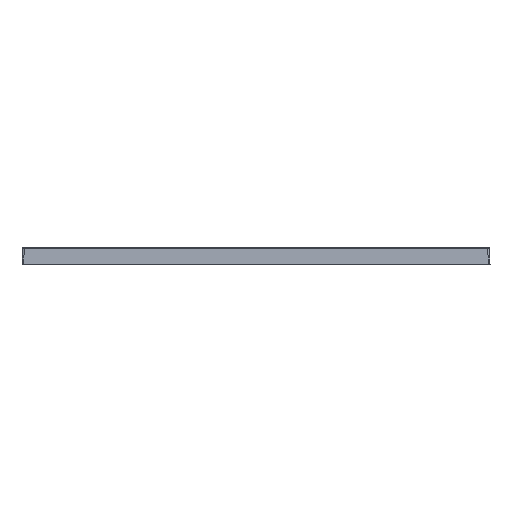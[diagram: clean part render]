
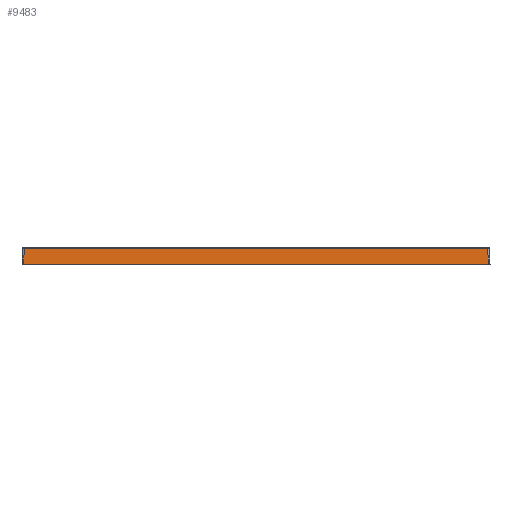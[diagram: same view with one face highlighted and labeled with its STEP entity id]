
A CAD part, front view. The second image highlights one B-rep face of the part: STEP entity #9483.
In plain terms, the highlighted planar face has unit normal (0, -0.999, 0.035).
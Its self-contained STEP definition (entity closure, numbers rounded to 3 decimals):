
#7407=CARTESIAN_POINT('',(-692.341,-497.338,-2.412));
#7408=VERTEX_POINT('',#7407);
#7554=CARTESIAN_POINT('',(692.341,-497.338,-2.413));
#7555=VERTEX_POINT('',#7554);
#7556=CARTESIAN_POINT('',(-692.341,-497.338,-2.412));
#7557=CARTESIAN_POINT('',(-683.12,-497.338,-2.411));
#7558=CARTESIAN_POINT('',(-673.917,-497.338,-2.411));
#7559=CARTESIAN_POINT('',(-664.766,-497.338,-2.413));
#7560=CARTESIAN_POINT('',(-652.677,-497.338,-2.416));
#7561=CARTESIAN_POINT('',(-640.813,-497.338,-2.419));
#7562=CARTESIAN_POINT('',(-637.878,-497.338,-2.42));
#7563=CARTESIAN_POINT('',(-627.754,-497.339,-2.423));
#7564=CARTESIAN_POINT('',(-617.711,-497.339,-2.425));
#7565=CARTESIAN_POINT('',(-610.567,-497.339,-2.427));
#7566=CARTESIAN_POINT('',(-600.946,-497.339,-2.428));
#7567=CARTESIAN_POINT('',(-591.087,-497.339,-2.429));
#7568=CARTESIAN_POINT('',(-588.552,-497.339,-2.429));
#7569=CARTESIAN_POINT('',(-578.569,-497.339,-2.428));
#7570=CARTESIAN_POINT('',(-568.365,-497.339,-2.427));
#7571=CARTESIAN_POINT('',(-560.596,-497.339,-2.426));
#7572=CARTESIAN_POINT('',(-550.12,-497.339,-2.425));
#7573=CARTESIAN_POINT('',(-539.514,-497.339,-2.424));
#7574=CARTESIAN_POINT('',(-536.855,-497.339,-2.424));
#7575=CARTESIAN_POINT('',(-526.107,-497.339,-2.423));
#7576=CARTESIAN_POINT('',(-515.229,-497.339,-2.422));
#7577=CARTESIAN_POINT('',(-506.972,-497.339,-2.422));
#7578=CARTESIAN_POINT('',(-490.312,-497.339,-2.422));
#7579=CARTESIAN_POINT('',(-473.324,-497.339,-2.422));
#7580=CARTESIAN_POINT('',(-464.694,-497.339,-2.422));
#7581=CARTESIAN_POINT('',(-447.381,-497.339,-2.423));
#7582=CARTESIAN_POINT('',(-429.752,-497.339,-2.424));
#7583=CARTESIAN_POINT('',(-420.832,-497.339,-2.424));
#7584=CARTESIAN_POINT('',(-402.883,-497.339,-2.426));
#7585=CARTESIAN_POINT('',(-384.628,-497.339,-2.428));
#7586=CARTESIAN_POINT('',(-375.421,-497.339,-2.429));
#7587=CARTESIAN_POINT('',(-356.16,-497.339,-2.432));
#7588=CARTESIAN_POINT('',(-336.578,-497.339,-2.436));
#7589=CARTESIAN_POINT('',(-326.346,-497.339,-2.437));
#7590=CARTESIAN_POINT('',(-305.735,-497.339,-2.441));
#7591=CARTESIAN_POINT('',(-284.805,-497.339,-2.445));
#7592=CARTESIAN_POINT('',(-274.203,-497.339,-2.447));
#7593=CARTESIAN_POINT('',(-252.968,-497.34,-2.451));
#7594=CARTESIAN_POINT('',(-231.418,-497.34,-2.454));
#7595=CARTESIAN_POINT('',(-220.544,-497.34,-2.456));
#7596=CARTESIAN_POINT('',(-198.663,-497.34,-2.46));
#7597=CARTESIAN_POINT('',(-176.465,-497.34,-2.463));
#7598=CARTESIAN_POINT('',(-165.284,-497.34,-2.465));
#7599=CARTESIAN_POINT('',(-141.232,-497.34,-2.468));
#7600=CARTESIAN_POINT('',(-116.829,-497.34,-2.47));
#7601=CARTESIAN_POINT('',(-103.754,-497.34,-2.471));
#7602=CARTESIAN_POINT('',(-77.408,-497.34,-2.473));
#7603=CARTESIAN_POINT('',(-50.696,-497.34,-2.474));
#7604=CARTESIAN_POINT('',(-37.251,-497.34,-2.474));
#7605=CARTESIAN_POINT('',(3.325,-497.34,-2.474));
#7606=CARTESIAN_POINT('',(44.648,-497.34,-2.473));
#7607=CARTESIAN_POINT('',(72.557,-497.34,-2.472));
#7608=CARTESIAN_POINT('',(117.571,-497.34,-2.469));
#7609=CARTESIAN_POINT('',(163.311,-497.34,-2.467));
#7610=CARTESIAN_POINT('',(180.557,-497.34,-2.466));
#7611=CARTESIAN_POINT('',(215.875,-497.34,-2.464));
#7612=CARTESIAN_POINT('',(251.583,-497.34,-2.462));
#7613=CARTESIAN_POINT('',(269.859,-497.34,-2.461));
#7614=CARTESIAN_POINT('',(307.377,-497.34,-2.46));
#7615=CARTESIAN_POINT('',(345.281,-497.34,-2.46));
#7616=CARTESIAN_POINT('',(364.711,-497.34,-2.459));
#7617=CARTESIAN_POINT('',(394.43,-497.34,-2.459));
#7618=CARTESIAN_POINT('',(424.366,-497.34,-2.458));
#7619=CARTESIAN_POINT('',(434.633,-497.34,-2.457));
#7620=CARTESIAN_POINT('',(455.271,-497.34,-2.456));
#7621=CARTESIAN_POINT('',(476.01,-497.34,-2.454));
#7622=CARTESIAN_POINT('',(486.402,-497.34,-2.453));
#7623=CARTESIAN_POINT('',(518.694,-497.339,-2.448));
#7624=CARTESIAN_POINT('',(551.228,-497.339,-2.442));
#7625=CARTESIAN_POINT('',(573.381,-497.339,-2.436));
#7626=CARTESIAN_POINT('',(610.366,-497.339,-2.425));
#7627=CARTESIAN_POINT('',(647.608,-497.338,-2.417));
#7628=CARTESIAN_POINT('',(662.484,-497.338,-2.415));
#7629=CARTESIAN_POINT('',(677.395,-497.338,-2.413));
#7630=CARTESIAN_POINT('',(692.341,-497.338,-2.413));
#7631=B_SPLINE_CURVE_WITH_KNOTS('',5,(#7556,#7557,#7558,#7559,#7560,#7561,#7562,#7563,#7564,#7565,#7566,#7567,#7568,#7569,#7570,#7571,#7572,#7573,#7574,#7575,#7576,#7577,#7578,#7579,#7580,#7581,#7582,#7583,#7584,#7585,#7586,#7587,#7588,#7589,#7590,#7591,#7592,#7593,#7594,#7595,#7596,#7597,#7598,#7599,#7600,#7601,#7602,#7603,#7604,#7605,#7606,#7607,#7608,#7609,#7610,#7611,#7612,#7613,#7614,#7615,#7616,#7617,#7618,#7619,#7620,#7621,#7622,#7623,#7624,#7625,#7626,#7627,#7628,#7629,#7630),.UNSPECIFIED.,.F.,.U.,(6,3,3,3,3,3,3,3,3,3,3,3,3,3,3,3,3,3,3,3,3,3,3,3,6),(0.0,90.927,121.269,195.387,219.97,294.088,318.794,393.661,468.429,543.257,618.123,698.621,779.018,859.496,939.994,1031.5,1122.995,1305.922,1415.427,1529.183,1647.542,1709.365,1771.153,1900.902,1986.816),.UNSPECIFIED.);
#7632=EDGE_CURVE('',#7408,#7555,#7631,.T.);
#9441=CARTESIAN_POINT('',(-694.003,-499.,-50.0));
#9442=VERTEX_POINT('',#9441);
#9450=CARTESIAN_POINT('',(-692.341,-497.338,-2.412));
#9451=DIRECTION('',(-0.035,-0.035,-0.999));
#9452=VECTOR('',#9451,47.646);
#9453=LINE('',#9450,#9452);
#9454=EDGE_CURVE('',#7408,#9442,#9453,.T.);
#9460=CARTESIAN_POINT('',(-701.891,-499.,-50.0));
#9461=DIRECTION('',(0.0,-0.999,0.035));
#9462=DIRECTION('',(0.0,-0.035,-0.999));
#9463=AXIS2_PLACEMENT_3D('',#9460,#9461,#9462);
#9464=PLANE('',#9463);
#9465=ORIENTED_EDGE('',*,*,#9454,.T.);
#9466=CARTESIAN_POINT('',(694.003,-499.,-50.0));
#9467=VERTEX_POINT('',#9466);
#9468=CARTESIAN_POINT('',(-694.003,-499.,-50.0));
#9469=DIRECTION('',(1.0,0.0,0.0));
#9470=VECTOR('',#9469,1388.006);
#9471=LINE('',#9468,#9470);
#9472=EDGE_CURVE('',#9442,#9467,#9471,.T.);
#9473=ORIENTED_EDGE('',*,*,#9472,.T.);
#9474=CARTESIAN_POINT('',(692.341,-497.338,-2.413));
#9475=DIRECTION('',(0.035,-0.035,-0.999));
#9476=VECTOR('',#9475,47.645);
#9477=LINE('',#9474,#9476);
#9478=EDGE_CURVE('',#7555,#9467,#9477,.T.);
#9479=ORIENTED_EDGE('',*,*,#9478,.F.);
#9480=ORIENTED_EDGE('',*,*,#7632,.F.);
#9481=EDGE_LOOP('',(#9465,#9473,#9479,#9480));
#9482=FACE_OUTER_BOUND('',#9481,.T.);
#9483=ADVANCED_FACE('',(#9482),#9464,.T.);
